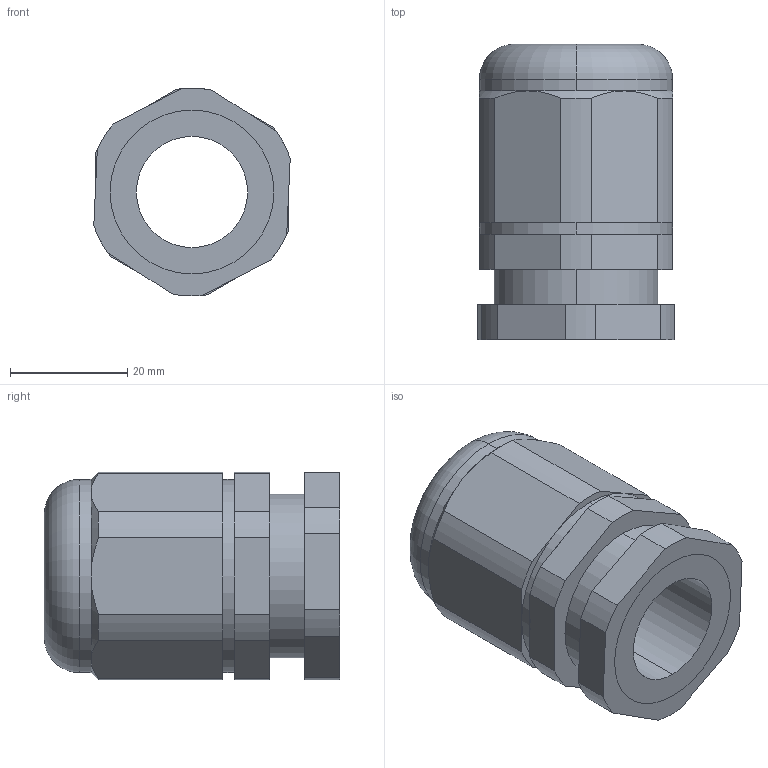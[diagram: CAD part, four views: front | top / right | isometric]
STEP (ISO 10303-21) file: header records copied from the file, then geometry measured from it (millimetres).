
FILE_DESCRIPTION (( 'STEP AP214' ), '1' );
FILE_NAME ('Ñàëüíèê PG21-(D ïðîâîäíèêà 15-18 ìì)-IP54.STEP', '2023-02-20T06:46:21', ( '' ), ( '' ), 'SwSTEP 2.0', 'SolidWorks 2018', '' );
FILE_SCHEMA (( 'AUTOMOTIVE_DESIGN' ));
Length unit declared in the file: millimetre
Products named in the file (3): Ñàëüíèê PG21-(D ïðîâîäíèêà 15-18 ìì)-IP54 ãàéêà; Ñàëüíèê PG21-(D ïðîâîäíèêà 15-18 ìì)-IP54; Ñàëüíèê PG21-(D ïðîâîäíèêà 15-18 ìì)-IP54 äåòàëü
Assembly tree (2 placements, depth 2):
  Ñàëüíèê PG21-(D ïðîâîäíèêà 15-18 ìì)-IP54
    Ñàëüíèê PG21-(D ïðîâîäíèêà 15-18 ìì)-IP54 äåòàëü
    Ñàëüíèê PG21-(D ïðîâîäíèêà 15-18 ìì)-IP54 ãàéêà
Bounding box: 33.57 x 50.5 x 35.5 mm (x, y, z)
Volume: 29032.3 mm3; surface area: 11124.2 mm2
Topology: 2 solids, 2 shells, 75 faces, 188 edges, 118 vertices
Faces by surface type: plane 35, cylinder 31, cone 7, torus 2
Entity records: 2404 total; most frequent: CARTESIAN_POINT 446, DIRECTION 420, ORIENTED_EDGE 376, EDGE_CURVE 188, AXIS2_PLACEMENT_3D 164, VERTEX_POINT 118, LINE 92, VECTOR 92
